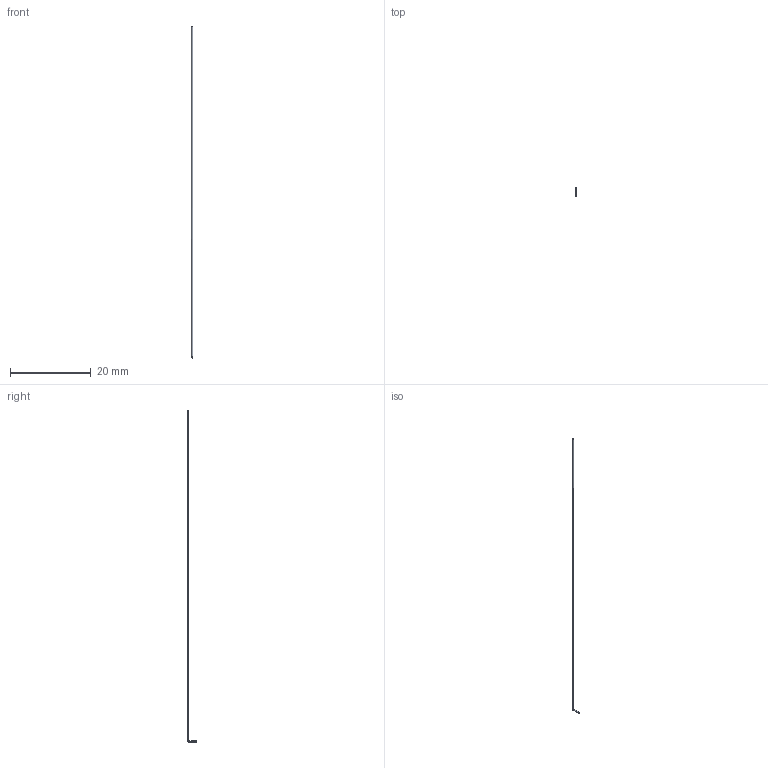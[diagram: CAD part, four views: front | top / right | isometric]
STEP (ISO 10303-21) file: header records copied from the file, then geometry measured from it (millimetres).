
FILE_DESCRIPTION((('zoo.dev export')), '2;1');
FILE_NAME('Stratolink_Wire_82mm_D0p321_Nominal.step', '2026-02-13T00:36:59.571562133+00:00', ('Author unknown'), ('Organization unknown'), 'zoo.dev beta', 'zoo.dev', 'Authorization unknown');
FILE_SCHEMA(('AP203_CONFIGURATION_CONTROLLED_3D_DESIGN_OF_MECHANICAL_PARTS_AND_ASSEMBLIES_MIM_LF'));
Length unit declared in the file: metre
Products named in the file (1): UNIDENTIFIED_PRODUCT
Bounding box: 0.32 x 2.16 x 82.16 mm (x, y, z)
Volume: 6.8 mm3; surface area: 84.8 mm2
Topology: 1 solids, 1 shells, 8 faces, 15 edges, 9 vertices
Faces by surface type: cylinder 4, plane 4
Entity records: 292 total; most frequent: CARTESIAN_POINT 126, ORIENTED_EDGE 30, DIRECTION 28, EDGE_CURVE 15, AXIS2_PLACEMENT_3D 13, VERTEX_POINT 9, EDGE_LOOP 8, FACE_BOUND 8
